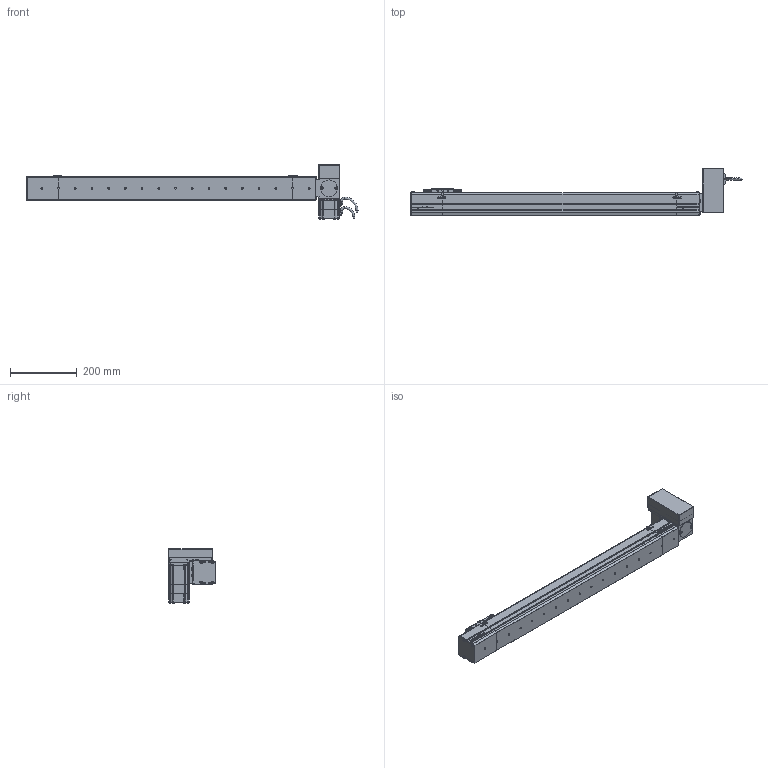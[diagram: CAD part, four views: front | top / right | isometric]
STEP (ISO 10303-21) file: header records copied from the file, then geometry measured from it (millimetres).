
FILE_DESCRIPTION (( 'STEP AP214' ), '1' );
FILE_NAME ('S07 CBN LT S700.STEP', '2010-06-29T10:01:51', ( 'Conseil Régional Haute-Normandie' ), ( 'Conseil Régional Haute-Normandie' ), 'SwSTEP 2.0', 'SolidWorks 2010', '' );
FILE_SCHEMA (( 'AUTOMOTIVE_DESIGN' ));
Length unit declared in the file: millimetre
Products named in the file (31): Head LT_Default; S07 CBN LT S700; Couvercle LT_Default; Corp LT_Default; Plaque de bout LT_Default; plaque de serrage LT_Default; Rondelle de Serrage LT_Default; Cache Support Moteur LT_Default; P1_Default; 60BLDC90A-640_Default; Support Moteur LT_Default; P2 90A_Default; Corp Tail_Default; Tail S07 Tail_Default; Couvercle S07 S700_Default; Conecteur2 60BLDC_Default; Conecteur 60BLDC_Default; Axe 60BLDC_Default; Corp S07 S700_Default; VisM3_Default; P4_Default; P3 90A_Default; vis M5 L8_Default; support chariot_Default; chariot_Default; Chariot S07_Default; plaque de serrage Tail_Default; Plaque de bout Tail_Default; vis M5 L15_Default; Couvercle Tail_Default
Assembly tree (71 placements, depth 4):
  S07 CBN LT S700
    Tail S07 Tail_Default
      vis M5 L15_Default  x6
      Corp Tail_Default
      Plaque de bout Tail_Default
      Couvercle Tail_Default
      plaque de serrage Tail_Default
    Corp S07 S700_Default
      Corp S07 S700_Default
      Couvercle S07 S700_Default
    Head LT_Default
      vis M5 L15_Default  x16
      Support Moteur LT_Default
      Rondelle de Serrage LT_Default  x3
      plaque de serrage LT_Default
      Corp LT_Default
      60BLDC90A-640_Default
        P1_Default
        VisM3_Default  x12
        Conecteur2 60BLDC_Default
        P2 90A_Default
        Conecteur 60BLDC_Default
        P4_Default
        Axe 60BLDC_Default
        P3 90A_Default
      Cache Support Moteur LT_Default
      Plaque de bout LT_Default
      Couvercle LT_Default
    Chariot S07_Default
      vis M5 L8_Default  x8
      chariot_Default
      support chariot_Default
Bounding box: 993.2 x 141 x 162 mm (x, y, z)
Volume: 4725856.6 mm3; surface area: 634487.9 mm2
Topology: 108 solids, 108 shells, 3892 faces, 9590 edges, 6172 vertices
Faces by surface type: plane 2250, bspline 756, cylinder 675, torus 112, cone 95, sphere 4
Entity records: 153353 total; most frequent: CARTESIAN_POINT 79591, ORIENTED_EDGE 14700, DIRECTION 10963, EDGE_CURVE 7350, VERTEX_POINT 4857, LINE 4773, VECTOR 4773, EDGE_LOOP 3149
